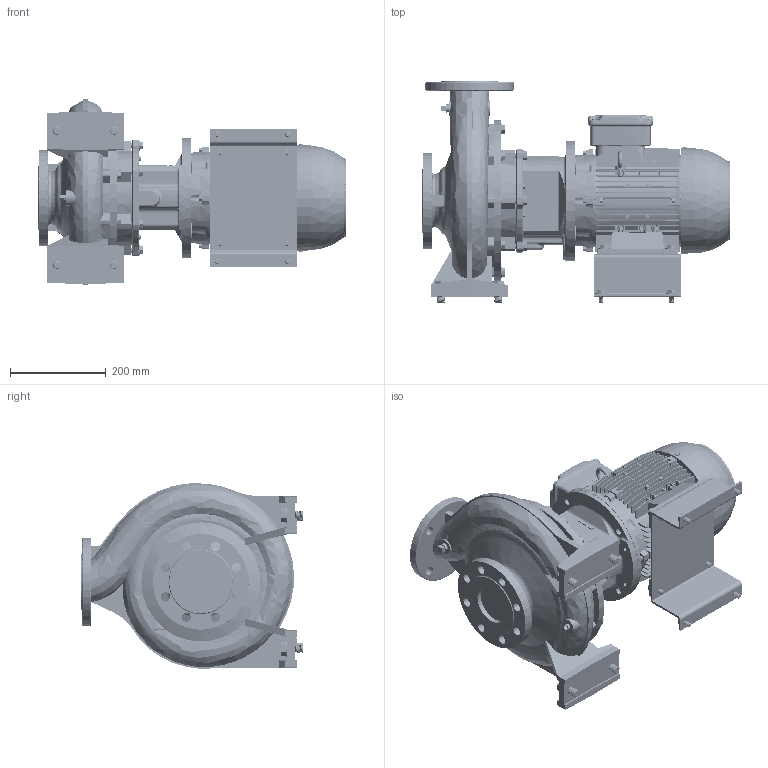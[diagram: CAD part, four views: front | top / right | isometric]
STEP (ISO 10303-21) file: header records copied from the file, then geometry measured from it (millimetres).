
FILE_DESCRIPTION (( 'STEP AP214' ), '1' );
FILE_NAME ('GSD4 65-250_4.0_(112M)_W21.STEP', '2026-07-01T01:59:17', ( '' ), ( '' ), 'SwSTEP 2.0', 'SolidWorks 2024', '' );
FILE_SCHEMA (( 'AUTOMOTIVE_DESIGN' ));
Length unit declared in the file: millimetre
Products named in the file (12): Parametric Flat Washer_M10; 65-250-112M_ﾃﾞﾌｫﾙﾄ; 112M ALIE3_W21T_B35; GSD4 65-250_4.0_(112M)_W21; Parametric bolt_SFT-A249B; Parametric bolt and washer_SFT-A249B; 140 x 88 - 271472192; Parametric Flat Washer_M16; Parametric bolt and washer_SFT-A253B; Parametric bolt_SFT-A353B; Parametric bolt and washer_SFT-A353B; Parametric bolt_SFT-A253B
Assembly tree (21 placements, depth 3):
  GSD4 65-250_4.0_(112M)_W21
    65-250-112M_ﾃﾞﾌｫﾙﾄ
    112M ALIE3_W21T_B35
    140 x 88 - 271472192
    Parametric bolt and washer_SFT-A249B  x4
      Parametric bolt_SFT-A249B
      Parametric Flat Washer_M10
    Parametric bolt and washer_SFT-A253B  x4
      Parametric bolt_SFT-A253B
      Parametric Flat Washer_M10
    Parametric bolt and washer_SFT-A353B  x4
      Parametric bolt_SFT-A353B
      Parametric Flat Washer_M16
Bounding box: 645.1 x 463 x 388.13 mm (x, y, z)
Volume: 26377300.1 mm3; surface area: 1902384.5 mm2
Topology: 36 solids, 38 shells, 5413 faces, 14389 edges, 9344 vertices
Faces by surface type: plane 2774, cylinder 1302, bspline 524, cone 431, torus 371, sphere 11
Entity records: 218363 total; most frequent: CARTESIAN_POINT 102474, ORIENTED_EDGE 26070, DIRECTION 20990, EDGE_CURVE 13035, VERTEX_POINT 8471, LINE 7210, VECTOR 7210, AXIS2_PLACEMENT_3D 6890
